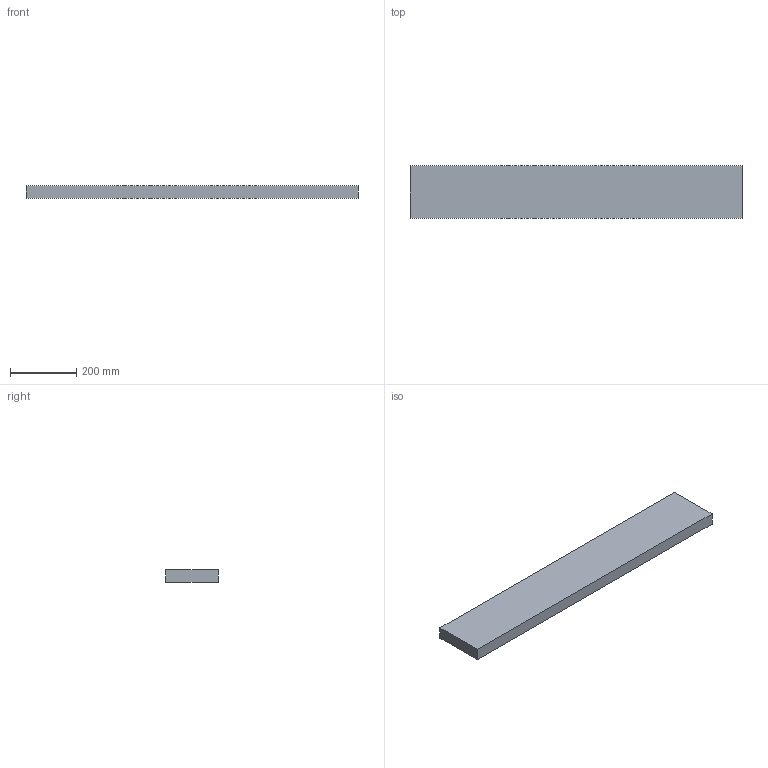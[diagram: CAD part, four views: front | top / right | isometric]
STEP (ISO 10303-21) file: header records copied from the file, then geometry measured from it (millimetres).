
FILE_DESCRIPTION(/* description */ ('Alibre Inc.'),/* implementation_level */ '2;1');
FILE_NAME(/* name */ 'export0',/* time_stamp */ '2012-07-19T18:10:05+02:00',/* author */ (''),/* organization */ (''),/* preprocessor_version */ 'ST-DEVELOPER v14',/* originating_system */ 'Alibre',/* authorisation */ '');
FILE_SCHEMA (('CONFIG_CONTROL_DESIGN'));
Length unit declared in the file: centimetre
Products named in the file (1): ID_1
Bounding box: 1000 x 158.8 x 38 mm (x, y, z)
Volume: 6034453.5 mm3; surface area: 405671.7 mm2
Topology: 1 solids, 1 shells, 6 faces, 12 edges, 8 vertices
Faces by surface type: plane 6
Entity records: 235 total; most frequent: CARTESIAN_POINT 26, ORIENTED_EDGE 24, DIRECTION 18, VECTOR 12, LINE 12, EDGE_CURVE 12, ORGANIZATION 8, PERSON 8
